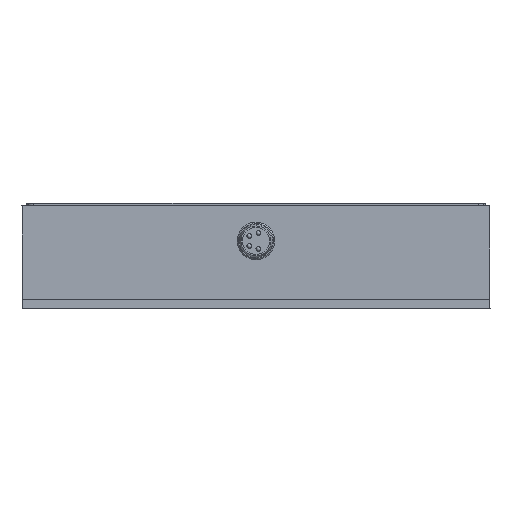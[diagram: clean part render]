
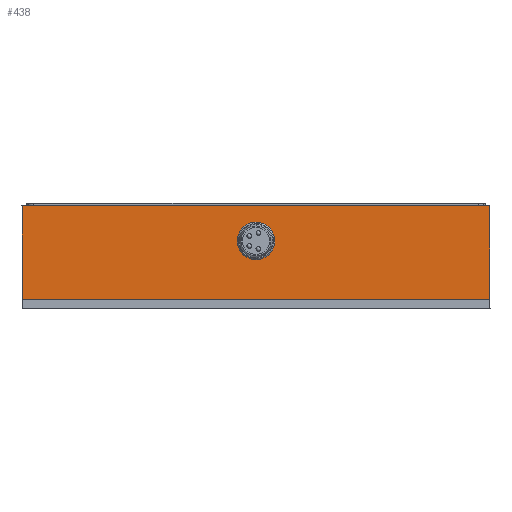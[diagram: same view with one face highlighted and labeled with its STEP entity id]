
A CAD part, left-side view. The second image highlights one B-rep face of the part: STEP entity #438.
In plain terms, the highlighted planar face has unit normal (-1, 0, 0).
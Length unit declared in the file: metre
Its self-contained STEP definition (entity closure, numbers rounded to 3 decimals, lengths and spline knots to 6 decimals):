
#438=ADVANCED_FACE('0:183',(#1058,#1059),#1060,.T.);
#1058=FACE_OUTER_BOUND('',#1894,.T.);
#1059=FACE_BOUND('',#1895,.T.);
#1060=PLANE('',#1896);
#1894=EDGE_LOOP('',(#3216,#3217,#3218,#3219));
#1895=EDGE_LOOP('',(#3220,#3221));
#1896=AXIS2_PLACEMENT_3D('',#3222,#3223,#3224);
#3216=ORIENTED_EDGE('',*,*,#5416,.T.);
#3217=ORIENTED_EDGE('',*,*,#5417,.F.);
#3218=ORIENTED_EDGE('',*,*,#5418,.T.);
#3219=ORIENTED_EDGE('',*,*,#5419,.T.);
#3220=ORIENTED_EDGE('',*,*,#5420,.T.);
#3221=ORIENTED_EDGE('',*,*,#5421,.T.);
#3222=CARTESIAN_POINT('',(-0.1014,-0.000001,0.029522));
#3223=DIRECTION('',(-1.0,0.,0.));
#3224=DIRECTION('',(0.,1.0,0.0));
#5416=EDGE_CURVE('0:1293',#6600,#6601,#6602,.T.);
#5417=EDGE_CURVE('0:1290',#6603,#6601,#6604,.T.);
#5418=EDGE_CURVE('0:1296',#6603,#6605,#6606,.T.);
#5419=EDGE_CURVE('0:1242',#6605,#6600,#6607,.T.);
#5420=EDGE_CURVE('0:801',#6608,#6609,#6610,.T.);
#5421=EDGE_CURVE('',#6609,#6608,#6611,.T.);
#6600=VERTEX_POINT('',#8622);
#6601=VERTEX_POINT('',#8623);
#6602=LINE('',#8624,#8625);
#6603=VERTEX_POINT('',#8626);
#6604=LINE('',#8627,#8628);
#6605=VERTEX_POINT('',#8629);
#6606=LINE('',#8630,#8631);
#6607=LINE('',#8632,#8633);
#6608=VERTEX_POINT('',#8634);
#6609=VERTEX_POINT('',#8635);
#6610=CIRCLE('',#8636,0.00335);
#6611=CIRCLE('',#8637,0.00335);
#8622=CARTESIAN_POINT('',(-0.1014,-0.049997,0.049531));
#8623=CARTESIAN_POINT('',(-0.1014,0.050003,0.049512));
#8624=CARTESIAN_POINT('',(-0.1014,0.050003,0.049512));
#8625=VECTOR('',#10398,1.0);
#8626=CARTESIAN_POINT('',(-0.1014,0.049999,0.029512));
#8627=CARTESIAN_POINT('',(-0.1014,0.049999,0.029512));
#8628=VECTOR('',#10399,1.0);
#8629=CARTESIAN_POINT('',(-0.1014,-0.050001,0.029531));
#8630=CARTESIAN_POINT('',(-0.1014,0.049999,0.029512));
#8631=VECTOR('',#10400,1.0);
#8632=CARTESIAN_POINT('',(-0.1014,-0.050001,0.029531));
#8633=VECTOR('',#10401,1.0);
#8634=CARTESIAN_POINT('',(-0.1014,0.003352,0.042023));
#8635=CARTESIAN_POINT('',(-0.1014,-0.003348,0.04202));
#8636=AXIS2_PLACEMENT_3D('',#10402,#10403,#10404);
#8637=AXIS2_PLACEMENT_3D('',#10405,#10406,#10407);
#10398=DIRECTION('',(0.,1.,0.));
#10399=DIRECTION('',(0.,0.,1.));
#10400=DIRECTION('',(0.,-1.,0.));
#10401=DIRECTION('',(0.,0.,1.));
#10402=CARTESIAN_POINT('',(-0.1014,0.000002,0.042022));
#10403=DIRECTION('',(1.0,0.,0.));
#10404=DIRECTION('',(0.,-1.,-0.001));
#10405=CARTESIAN_POINT('',(-0.1014,0.000002,0.042022));
#10406=DIRECTION('',(1.0,0.,0.));
#10407=DIRECTION('',(0.,-1.,-0.001));
